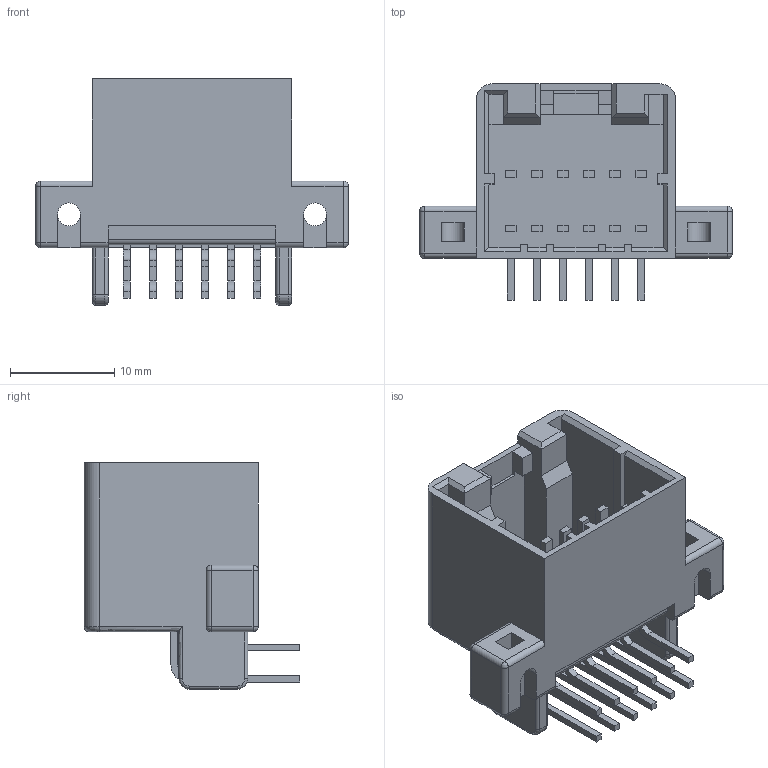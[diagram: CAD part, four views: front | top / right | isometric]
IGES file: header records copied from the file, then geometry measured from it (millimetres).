
Start section:  PTC IGES file: c-174051-2-k-3d.igs
Global section: file name: c-174051-2-k-3d.igs; native system: Pro/ENGINEER by Parametric Technology Corporation; preprocessor: 2008380; author: workeradm; organization: Unknown; units: millimetre
Bounding box: 30 x 20.7 x 21.7 mm (x, y, z)
Surface area: 3942.6 mm2 (no closed solid volume)
Topology: 0 solids, 0 shells, 368 faces, 1928 edges, 1928 vertices
Faces by surface type: bspline 278, revolution 90
